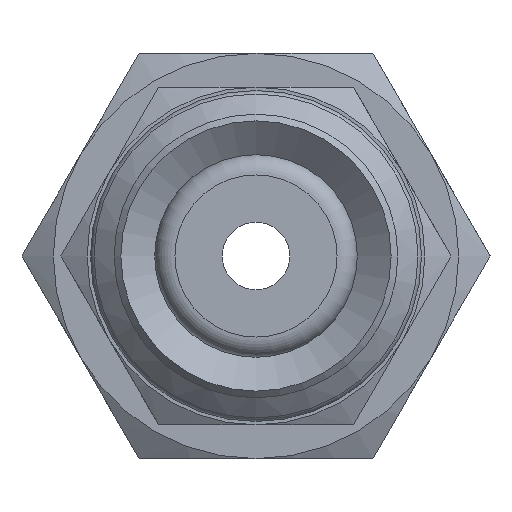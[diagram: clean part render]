
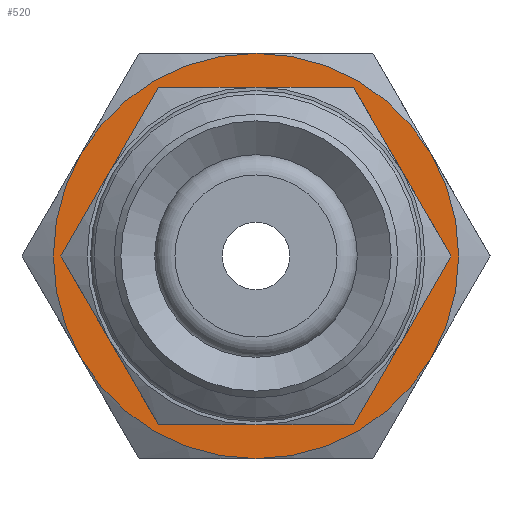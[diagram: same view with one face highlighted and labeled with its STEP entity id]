
A CAD part, front view. The second image highlights one B-rep face of the part: STEP entity #520.
In plain terms, the highlighted planar face has unit normal (0, -1, 0) as drawn and (-1, 0, 0) by its records, which use the part's own axes.
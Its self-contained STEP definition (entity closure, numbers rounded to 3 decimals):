
#520=ADVANCED_FACE('',(#722,#723),#724,.F.);
#722=FACE_BOUND('',#1010,.T.);
#723=FACE_OUTER_BOUND('',#1011,.T.);
#724=PLANE('',#1012);
#1010=EDGE_LOOP('',(#1590));
#1011=EDGE_LOOP('',(#1591,#1592,#1593,#1594,#1595,#1596));
#1012=AXIS2_PLACEMENT_3D('',#1597,#1598,#1599);
#1590=ORIENTED_EDGE('',*,*,#2031,.T.);
#1591=ORIENTED_EDGE('',*,*,#2022,.F.);
#1592=ORIENTED_EDGE('',*,*,#1993,.F.);
#1593=ORIENTED_EDGE('',*,*,#2023,.F.);
#1594=ORIENTED_EDGE('',*,*,#2008,.F.);
#1595=ORIENTED_EDGE('',*,*,#2007,.F.);
#1596=ORIENTED_EDGE('',*,*,#2021,.F.);
#1597=CARTESIAN_POINT('',(0.,0.0,0.0));
#1598=DIRECTION('',(1.0,0.0,0.0));
#1599=DIRECTION('',(0.0,1.0,0.0));
#1993=EDGE_CURVE('',#2260,#2263,#2264,.T.);
#2007=EDGE_CURVE('',#2286,#2283,#2288,.T.);
#2008=EDGE_CURVE('',#2283,#2289,#2290,.T.);
#2021=EDGE_CURVE('',#2280,#2286,#2308,.T.);
#2022=EDGE_CURVE('',#2263,#2280,#2309,.T.);
#2023=EDGE_CURVE('',#2289,#2260,#2310,.T.);
#2031=EDGE_CURVE('',#2321,#2321,#2322,.T.);
#2260=VERTEX_POINT('',#2712);
#2263=VERTEX_POINT('',#2735);
#2264=CIRCLE('',#2736,6.0);
#2280=VERTEX_POINT('',#2814);
#2283=VERTEX_POINT('',#2837);
#2286=VERTEX_POINT('',#2850);
#2288=CIRCLE('',#2862,6.0);
#2289=VERTEX_POINT('',#2863);
#2290=CIRCLE('',#2864,6.0);
#2308=CIRCLE('',#2964,6.0);
#2309=CIRCLE('',#2965,6.0);
#2310=CIRCLE('',#2966,6.0);
#2321=VERTEX_POINT('',#2997);
#2322=CIRCLE('',#2998,4.0);
#2712=CARTESIAN_POINT('',(0.,0.0,-6.0));
#2735=CARTESIAN_POINT('',(0.,5.196,-3.0));
#2736=AXIS2_PLACEMENT_3D('',#3290,#3291,#3292);
#2814=CARTESIAN_POINT('',(0.,5.196,3.0));
#2837=CARTESIAN_POINT('',(0.,-5.196,3.0));
#2850=CARTESIAN_POINT('',(0.,0.0,6.0));
#2862=AXIS2_PLACEMENT_3D('',#3298,#3299,#3300);
#2863=CARTESIAN_POINT('',(0.,-5.196,-3.0));
#2864=AXIS2_PLACEMENT_3D('',#3301,#3302,#3303);
#2964=AXIS2_PLACEMENT_3D('',#3312,#3313,#3314);
#2965=AXIS2_PLACEMENT_3D('',#3315,#3316,#3317);
#2966=AXIS2_PLACEMENT_3D('',#3318,#3319,#3320);
#2997=CARTESIAN_POINT('',(0.,0.0,-4.0));
#2998=AXIS2_PLACEMENT_3D('',#3336,#3337,#3338);
#3290=CARTESIAN_POINT('',(0.,0.0,0.0));
#3291=DIRECTION('',(1.0,0.0,0.0));
#3292=DIRECTION('',(0.0,0.0,-1.0));
#3298=CARTESIAN_POINT('',(0.,0.0,0.0));
#3299=DIRECTION('',(1.0,0.0,0.0));
#3300=DIRECTION('',(0.0,0.0,-1.0));
#3301=CARTESIAN_POINT('',(0.,0.0,0.0));
#3302=DIRECTION('',(1.0,0.0,0.0));
#3303=DIRECTION('',(0.0,0.0,-1.0));
#3312=CARTESIAN_POINT('',(0.,0.0,0.0));
#3313=DIRECTION('',(1.0,0.0,0.0));
#3314=DIRECTION('',(0.0,0.0,-1.0));
#3315=CARTESIAN_POINT('',(0.,0.0,0.0));
#3316=DIRECTION('',(1.0,0.0,0.0));
#3317=DIRECTION('',(0.0,0.0,-1.0));
#3318=CARTESIAN_POINT('',(0.,0.0,0.0));
#3319=DIRECTION('',(1.0,0.0,0.0));
#3320=DIRECTION('',(0.0,0.0,-1.0));
#3336=CARTESIAN_POINT('',(0.,0.0,0.0));
#3337=DIRECTION('',(1.0,0.0,0.0));
#3338=DIRECTION('',(0.0,0.0,-1.0));
